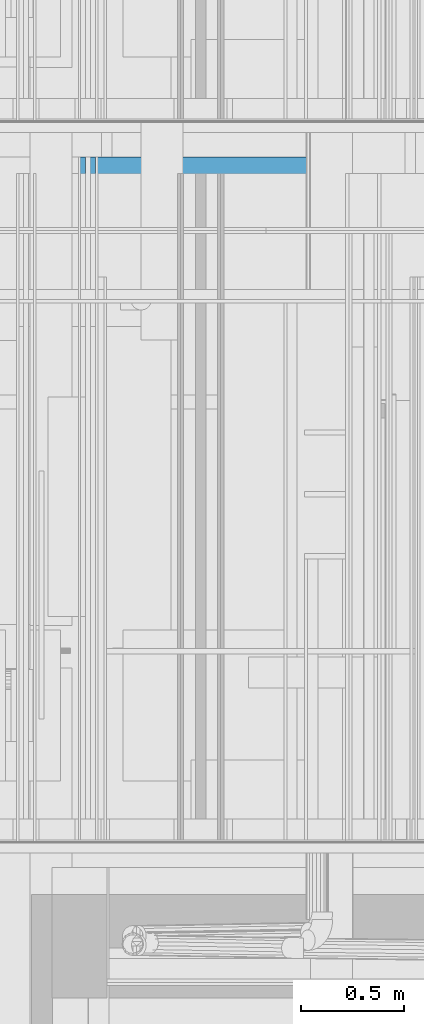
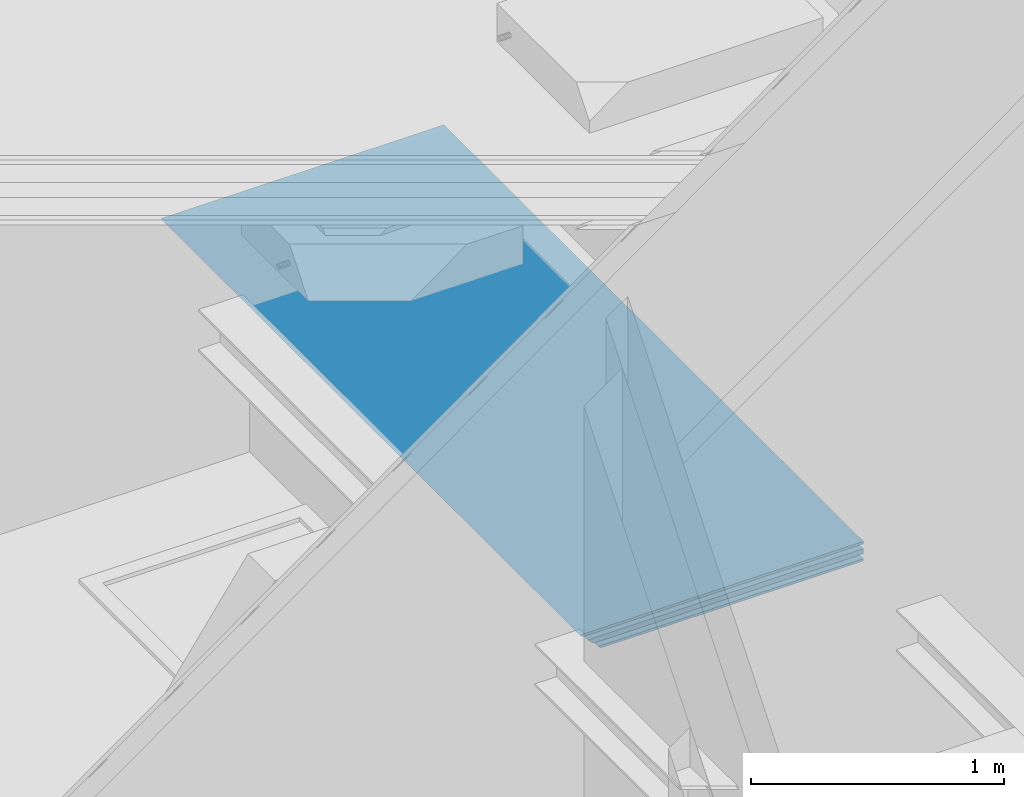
# One storey, part 63 of 583: 3 building element parts, 1 element without a shape of its own.
"""IFC2X3 building model written with IfcOpenShell, lengths in metres."""

from ifc_helpers import new_model, entity, si_unit, converted_unit, derived_unit, money_unit, direction, frame, origin_with_axes, place, context, subcontext, project, spatial, polyline, outline, extrude, material, type_object, element, aggregate, save


model = new_model("IFC2X3")

# Units and contexts
model_context = context("Model", 3, precision=1e-05, world=origin_with_axes(), true_north=direction((0.0, 1.0)))
body_context = subcontext(model_context, "Body", "Model", "MODEL_VIEW", scale=1.0)
ifc_project = project(units=[si_unit("LENGTHUNIT", "METRE"), si_unit("AREAUNIT", "SQUARE_METRE"), si_unit("VOLUMEUNIT", "CUBIC_METRE"), si_unit("ABSORBEDDOSEUNIT", "GRAY"), si_unit("AMOUNTOFSUBSTANCEUNIT", "MOLE"), si_unit("DOSEEQUIVALENTUNIT", "SIEVERT"), si_unit("ELECTRICCAPACITANCEUNIT", "FARAD"), si_unit("ELECTRICCHARGEUNIT", "COULOMB"), si_unit("ELECTRICCONDUCTANCEUNIT", "SIEMENS"), si_unit("ELECTRICCURRENTUNIT", "AMPERE"), si_unit("ELECTRICRESISTANCEUNIT", "OHM"), si_unit("ELECTRICVOLTAGEUNIT", "VOLT"), si_unit("ENERGYUNIT", "JOULE"), si_unit("FORCEUNIT", "NEWTON"), si_unit("FREQUENCYUNIT", "HERTZ"), si_unit("ILLUMINANCEUNIT", "LUX"), si_unit("INDUCTANCEUNIT", "HENRY"), si_unit("LUMINOUSFLUXUNIT", "LUMEN"), si_unit("LUMINOUSINTENSITYUNIT", "CANDELA"), si_unit("MAGNETICFLUXDENSITYUNIT", "TESLA"), si_unit("MAGNETICFLUXUNIT", "WEBER"), si_unit("MASSUNIT", "GRAM"), converted_unit("PLANEANGLEUNIT", "degree", entity("IfcReal", 0.0174532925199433), si_unit("PLANEANGLEUNIT", "RADIAN"), dimensions=[0, 0, 0, 0, 0, 0, 0]), si_unit("POWERUNIT", "WATT"), si_unit("PRESSUREUNIT", "PASCAL"), si_unit("RADIOACTIVITYUNIT", "BECQUEREL"), si_unit("SOLIDANGLEUNIT", "STERADIAN"), si_unit("THERMODYNAMICTEMPERATUREUNIT", "KELVIN"), si_unit("TIMEUNIT", "SECOND"), derived_unit("ACCELERATIONUNIT", [(si_unit("LENGTHUNIT", "METRE"), 1), (si_unit("TIMEUNIT", "SECOND"), -2)]), derived_unit("ANGULARVELOCITYUNIT", [(converted_unit("PLANEANGLEUNIT", "degree", entity("IfcReal", 0.0174532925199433), si_unit("PLANEANGLEUNIT", "RADIAN"), dimensions=[0, 0, 0, 0, 0, 0, 0]), 1), (si_unit("TIMEUNIT", "SECOND"), -1)]), derived_unit("CURVATUREUNIT", [(converted_unit("PLANEANGLEUNIT", "degree", entity("IfcReal", 0.0174532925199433), si_unit("PLANEANGLEUNIT", "RADIAN"), dimensions=[0, 0, 0, 0, 0, 0, 0]), 1), (si_unit("LENGTHUNIT", "METRE"), -1)]), derived_unit("DYNAMICVISCOSITYUNIT", [(si_unit("PRESSUREUNIT", "PASCAL"), 1), (si_unit("TIMEUNIT", "SECOND"), 1)]), derived_unit("HEATFLUXDENSITYUNIT", [(si_unit("POWERUNIT", "WATT"), 1), (si_unit("LENGTHUNIT", "METRE"), -2)]), derived_unit("HEATINGVALUEUNIT", [(si_unit("ENERGYUNIT", "JOULE"), 1), (si_unit("MASSUNIT", "GRAM"), -1)]), derived_unit("INTEGERCOUNTRATEUNIT", [(si_unit("TIMEUNIT", "SECOND"), -1)]), derived_unit("IONCONCENTRATIONUNIT", [(si_unit("MASSUNIT", "GRAM"), 1), (si_unit("VOLUMEUNIT", "CUBIC_METRE"), -1)]), derived_unit("ISOTHERMALMOISTURECAPACITYUNIT", [(si_unit("VOLUMEUNIT", "CUBIC_METRE"), 1), (si_unit("MASSUNIT", "GRAM"), -1)]), derived_unit("KINEMATICVISCOSITYUNIT", [(si_unit("AREAUNIT", "SQUARE_METRE"), 1), (si_unit("TIMEUNIT", "SECOND"), -1)]), derived_unit("LINEARFORCEUNIT", [(si_unit("FORCEUNIT", "NEWTON"), 1), (si_unit("LENGTHUNIT", "METRE"), -1)]), derived_unit("LINEARMOMENTUNIT", [(si_unit("FORCEUNIT", "NEWTON"), 1), (si_unit("LENGTHUNIT", "METRE"), -1)]), derived_unit("LINEARSTIFFNESSUNIT", [(si_unit("FORCEUNIT", "NEWTON"), 1), (si_unit("LENGTHUNIT", "METRE"), -1)]), derived_unit("LINEARVELOCITYUNIT", [(si_unit("LENGTHUNIT", "METRE"), 1), (si_unit("TIMEUNIT", "SECOND"), -1)]), derived_unit("LUMINOUSINTENSITYDISTRIBUTIONUNIT", [(si_unit("LUMINOUSINTENSITYUNIT", "CANDELA"), 1), (si_unit("LUMINOUSFLUXUNIT", "LUMEN"), -1)]), derived_unit("MASSDENSITYUNIT", [(si_unit("MASSUNIT", "GRAM"), 1), (si_unit("VOLUMEUNIT", "CUBIC_METRE"), -1)]), derived_unit("MASSFLOWRATEUNIT", [(si_unit("MASSUNIT", "GRAM"), 1), (si_unit("TIMEUNIT", "SECOND"), -1)]), derived_unit("MASSPERLENGTHUNIT", [(si_unit("MASSUNIT", "GRAM"), 1), (si_unit("LENGTHUNIT", "METRE"), -1)]), derived_unit("MODULUSOFELASTICITYUNIT", [(si_unit("FORCEUNIT", "NEWTON"), 1), (si_unit("AREAUNIT", "SQUARE_METRE"), -1)]), derived_unit("MODULUSOFLINEARSUBGRADEREACTIONUNIT", [(si_unit("FORCEUNIT", "NEWTON"), 1), (si_unit("LENGTHUNIT", "METRE"), -2)]), derived_unit("MODULUSOFROTATIONALSUBGRADEREACTIONUNIT", [(si_unit("FORCEUNIT", "NEWTON"), 1), (si_unit("LENGTHUNIT", "METRE"), 1)]), derived_unit("MODULUSOFSUBGRADEREACTIONUNIT", [(si_unit("FORCEUNIT", "NEWTON"), 1), (si_unit("VOLUMEUNIT", "CUBIC_METRE"), -1)]), derived_unit("MOISTUREDIFFUSIVITYUNIT", [(si_unit("VOLUMEUNIT", "CUBIC_METRE"), 1), (si_unit("TIMEUNIT", "SECOND"), -1)]), derived_unit("MOLECULARWEIGHTUNIT", [(si_unit("MASSUNIT", "GRAM"), 1), (si_unit("AMOUNTOFSUBSTANCEUNIT", "MOLE"), -1)]), derived_unit("PLANARFORCEUNIT", [(si_unit("FORCEUNIT", "NEWTON"), 1), (si_unit("LENGTHUNIT", "METRE"), -2)]), derived_unit("ROTATIONALFREQUENCYUNIT", [(si_unit("TIMEUNIT", "SECOND"), -1)]), derived_unit("ROTATIONALMASSUNIT", [(si_unit("MASSUNIT", "GRAM"), 1), (si_unit("LENGTHUNIT", "METRE"), 2)]), derived_unit("ROTATIONALSTIFFNESSUNIT", [(si_unit("FORCEUNIT", "NEWTON"), 1), (si_unit("LENGTHUNIT", "METRE"), 1), (converted_unit("PLANEANGLEUNIT", "degree", entity("IfcReal", 0.0174532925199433), si_unit("PLANEANGLEUNIT", "RADIAN"), dimensions=[0, 0, 0, 0, 0, 0, 0]), -1)]), derived_unit("SECTIONAREAINTEGRALUNIT", [(si_unit("LENGTHUNIT", "METRE"), 5)]), derived_unit("SECTIONMODULUSUNIT", [(si_unit("LENGTHUNIT", "METRE"), 3)]), derived_unit("SHEARMODULUSUNIT", [(si_unit("FORCEUNIT", "NEWTON"), 1), (si_unit("AREAUNIT", "SQUARE_METRE"), -1)]), derived_unit("SOUNDPOWERUNIT", [(si_unit("ENERGYUNIT", "JOULE"), 1), (si_unit("TIMEUNIT", "SECOND"), -1)]), derived_unit("SPECIFICHEATCAPACITYUNIT", [(si_unit("FORCEUNIT", "NEWTON"), 1), (si_unit("MASSUNIT", "GRAM"), -1), (si_unit("THERMODYNAMICTEMPERATUREUNIT", "KELVIN"), -1)]), derived_unit("TEMPERATUREGRADIENTUNIT", [(si_unit("THERMODYNAMICTEMPERATUREUNIT", "KELVIN"), 1), (si_unit("LENGTHUNIT", "METRE"), -1)]), derived_unit("THERMALADMITTANCEUNIT", [(si_unit("POWERUNIT", "WATT"), 1), (si_unit("AREAUNIT", "SQUARE_METRE"), -1), (si_unit("THERMODYNAMICTEMPERATUREUNIT", "KELVIN"), -1)]), derived_unit("THERMALCONDUCTANCEUNIT", [(si_unit("POWERUNIT", "WATT"), 1), (si_unit("LENGTHUNIT", "METRE"), -1), (si_unit("THERMODYNAMICTEMPERATUREUNIT", "KELVIN"), -1)]), derived_unit("THERMALEXPANSIONCOEFFICIENTUNIT", [(si_unit("THERMODYNAMICTEMPERATUREUNIT", "KELVIN"), -1)]), derived_unit("THERMALRESISTANCEUNIT", [(si_unit("AREAUNIT", "SQUARE_METRE"), 1), (si_unit("POWERUNIT", "WATT"), -1)]), derived_unit("THERMALTRANSMITTANCEUNIT", [(si_unit("POWERUNIT", "WATT"), 1), (si_unit("AREAUNIT", "SQUARE_METRE"), -1), (si_unit("THERMODYNAMICTEMPERATUREUNIT", "KELVIN"), -1)]), derived_unit("TORQUEUNIT", [(si_unit("FORCEUNIT", "NEWTON"), 1), (si_unit("LENGTHUNIT", "METRE"), 1)]), derived_unit("VAPORPERMEABILITYUNIT", [(si_unit("MASSUNIT", "GRAM"), 1), (si_unit("TIMEUNIT", "SECOND"), -1)]), derived_unit("VOLUMETRICFLOWRATEUNIT", [(si_unit("VOLUMEUNIT", "CUBIC_METRE"), 1), (si_unit("TIMEUNIT", "SECOND"), -1)]), derived_unit("WARPINGCONSTANTUNIT", [(si_unit("LENGTHUNIT", "METRE"), 6)]), derived_unit("WARPINGMOMENTUNIT", [(si_unit("FORCEUNIT", "NEWTON"), 1), (si_unit("LENGTHUNIT", "METRE"), 2)]), money_unit("GBP")], contexts=[model_context])

# Site, building, storey
site_placement = place(None, origin_with_axes())
site = spatial("IfcSite", under=ifc_project, at=site_placement, Name="Site", CompositionType="ELEMENT")
building_placement = place(site_placement, origin_with_axes())
building = spatial("IfcBuilding", under=site, at=building_placement, Name="Building01", CompositionType="ELEMENT")
storey_placement = place(building_placement, frame((0.0, 0.0, 20.78), z_axis=(0.0, 0.0, 1.0), x_axis=(1.0, 0.0, 0.0)))
storey = spatial("IfcBuildingStorey", under=building, at=storey_placement, Name="RL", CompositionType="ELEMENT", Elevation=20.78)

# Wall, building element parts
wall_type = type_object("IfcWallType", Name="SHE_A-Walls_Type05a_Partition_95mm_tall", PredefinedType="NOTDEFINED")
wall_placement = place(storey_placement, frame((3.72, 5.15, -0.305), z_axis=(0.0, 1.0, 0.0), x_axis=(1.0, 0.0, 0.0)))
wall = element("IfcWall", 1, at=wall_placement, inside=storey, type_object=wall_type, Name="5A", ObjectType="SHE_A-Walls_Type05a_Partition_95mm_tall")
ifc_material_1 = material(Name="A_BSUK_Insulation")
placement = place(wall_placement, origin_with_axes())
building_element_part_1 = element("IfcBuildingElementPart", 2, at=placement, material=ifc_material_1, Name="1", context=body_context, shape_type="SweptSolid", body=[
    extrude(outline(polyline([(1.26, 0.025), (0.025, 0.025), (0.0, 0.0), (1.26, 0.0), (1.26, 0.025)])), origin_with_axes(), (0.0, 0.0, 1.0), 3.32),
])
ifc_material_2 = material(Name="A_BSUK_WallInternal_Finishes_Plasterboard")
building_element_part_2 = element("IfcBuildingElementPart", 3, at=placement, material=ifc_material_2, Name="4", context=body_context, shape_type="SweptSolid", body=[
    extrude(outline(polyline([(1.26, -0.023), (-0.023, -0.023), (-0.035, -0.035), (1.26, -0.035), (1.26, -0.023)])), origin_with_axes(), (0.0, 0.0, 1.0), 3.32),
])
building_element_part_3 = element("IfcBuildingElementPart", 4, at=placement, material=ifc_material_2, Name="5", context=body_context, shape_type="SweptSolid", body=[
    extrude(outline(polyline([(1.26, 0.06), (0.06, 0.06), (0.048, 0.048), (1.26, 0.048), (1.26, 0.06)])), origin_with_axes(), (0.0, 0.0, 1.0), 3.32),
])
aggregate(wall, [building_element_part_1, building_element_part_2, building_element_part_3])

save(model, "model.ifc")
